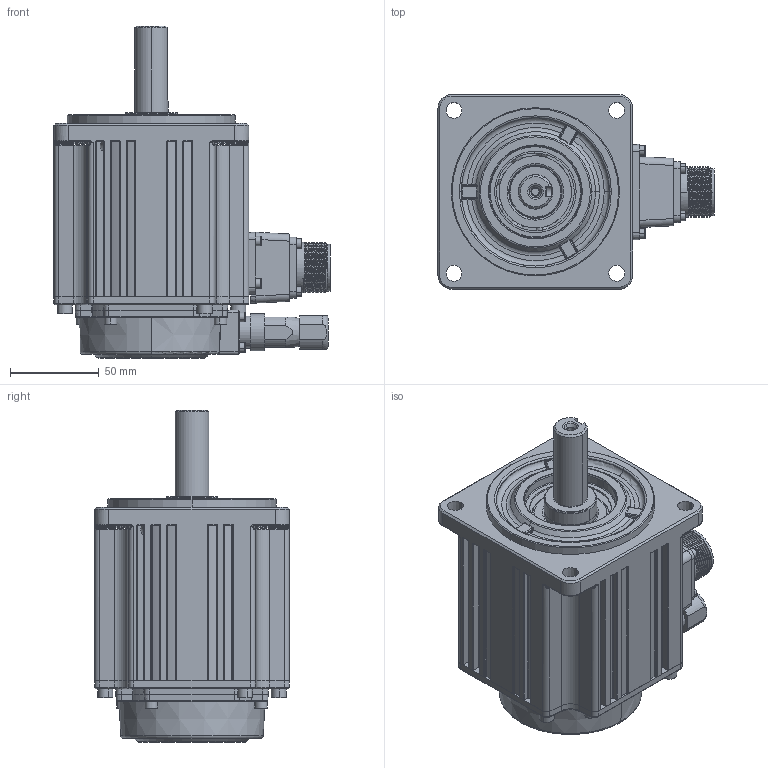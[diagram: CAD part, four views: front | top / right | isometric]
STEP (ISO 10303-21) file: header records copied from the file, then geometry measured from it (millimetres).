
FILE_DESCRIPTION(('FreeCAD Model'),'2;1');
FILE_NAME('Open CASCADE Shape Model','2025-03-19T09:53:55',('Author'),( ''),'Open CASCADE STEP processor 7.6','FreeCAD','Unknown');
FILE_SCHEMA(('AUTOMOTIVE_DESIGN { 1 0 10303 214 1 1 1 1 }'));
Length unit declared in the file: millimetre
Products named in the file (43): PSM6G-110CS30B2-41P5; PSM6G-110CS30B2-41P006; PSM6G-110CS30B2-41P007; PSM6G-110CS30B2-41P008; PSM6G-110CS30B2-41P009; PSM6G-110CS30B2-41P010; PSM6G-110CS30B2-41P011; PSM6G-110CS30B2-41P012; PSM6G-110CS30B2-41P013; PSM6G-110CS30B2-41P014; PSM6G-110CS30B2-41P015; PSM6G-110CS30B2-41P016; PSM6G-110CS30B2-41P017; PSM6G-110CS30B2-41P018; PSM6G-110CS30B2-41P019; PSM6G-110CS30B2-41P020; PSM6G-110CS30B2-41P021; PSM6G-110CS30B2-41P022; PSM6G-110CS30B2-41P023; PSM6G-110CS30B2-41P024; PSM6G-110CS30B2-41P025; PSM6G-110CS30B2-41P026; PSM6G-110CS30B2-41P027; PSM6G-110CS30B2-41P028; PSM6G-110CS30B2-41P029; PSM6G-110CS30B2-41P030; PSM6G-110CS30B2-41P031; PSM6G-110CS30B2-41P032; PSM6G-110CS30B2-41P033; PSM6G-110CS30B2-41P034; PSM6G-110CS30B2-41P035; PSM6G-110CS30B2-41P036; PSM6G-110CS30B2-41P037; PSM6G-110CS30B2-41P038; PSM6G-110CS30B2-41P039; PSM6G-110CS30B2-41P040; PSM6G-110CS30B2-41P041; PSM6G-110CS30B2-41P042; PSM6G-110CS30B2-41P043; PSM6G-110CS30B2-41P044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
Assembly tree (42 placements, depth 2):
  PSM6G-110CS30B2-41P5
    PSM6G-110CS30B2-41P006
    PSM6G-110CS30B2-41P007
    PSM6G-110CS30B2-41P008
    PSM6G-110CS30B2-41P009
    PSM6G-110CS30B2-41P010
    PSM6G-110CS30B2-41P011
    PSM6G-110CS30B2-41P012
    PSM6G-110CS30B2-41P013
    PSM6G-110CS30B2-41P014
    PSM6G-110CS30B2-41P015
    PSM6G-110CS30B2-41P016
    PSM6G-110CS30B2-41P017
    PSM6G-110CS30B2-41P018
    PSM6G-110CS30B2-41P019
    PSM6G-110CS30B2-41P020
    PSM6G-110CS30B2-41P021
    PSM6G-110CS30B2-41P022
    PSM6G-110CS30B2-41P023
    PSM6G-110CS30B2-41P024
    PSM6G-110CS30B2-41P025
    PSM6G-110CS30B2-41P026
    PSM6G-110CS30B2-41P027
    PSM6G-110CS30B2-41P028
    PSM6G-110CS30B2-41P029
    PSM6G-110CS30B2-41P030
    PSM6G-110CS30B2-41P031
    PSM6G-110CS30B2-41P032
    PSM6G-110CS30B2-41P033
    PSM6G-110CS30B2-41P034
    PSM6G-110CS30B2-41P035
    PSM6G-110CS30B2-41P036
    PSM6G-110CS30B2-41P037
    PSM6G-110CS30B2-41P038
    PSM6G-110CS30B2-41P039
    PSM6G-110CS30B2-41P040
    PSM6G-110CS30B2-41P041
    PSM6G-110CS30B2-41P042
    PSM6G-110CS30B2-41P043
    PSM6G-110CS30B2-41P044
    PSM6G-110CS30B2-41P045
    PSM6G-110CS30B2-41P046
    PSM6G-110CS30B2-41P047
Bounding box: 155.9 x 110 x 187.5 mm (x, y, z)
Surface area: 112855.1 mm2 (no closed solid volume)
Topology: 0 solids, 42 shells, 1032 faces, 2947 edges, 1888 vertices
Faces by surface type: cylinder 348, plane 333, bspline 129, torus 128, cone 74, sphere 20
Entity records: 41487 total; most frequent: CARTESIAN_POINT 14736, DIRECTION 5508, ORIENTED_EDGE 4967, EDGE_CURVE 2924, AXIS2_PLACEMENT_3D 2118, VERTEX_POINT 1888, LINE 1272, VECTOR 1272
